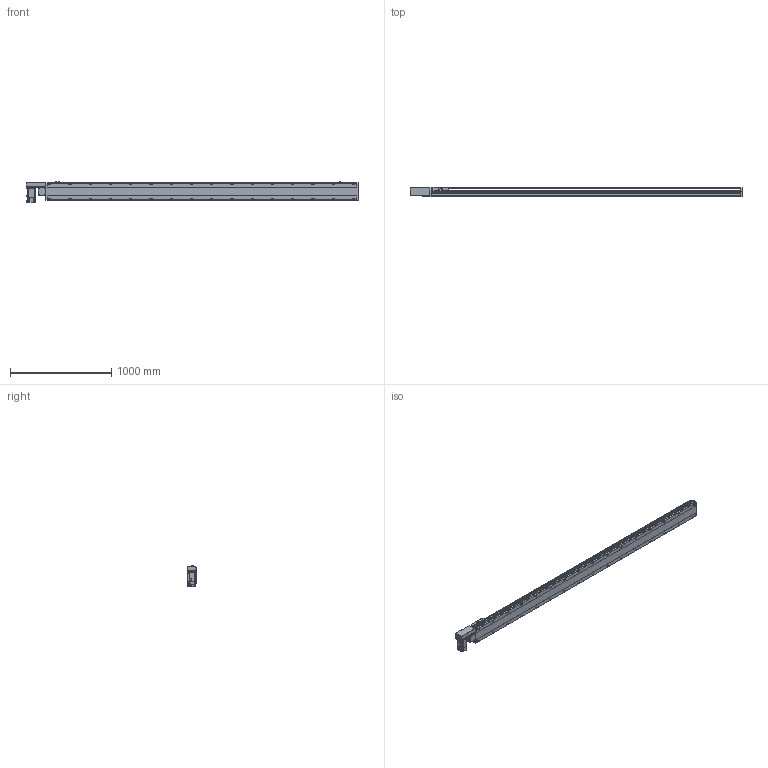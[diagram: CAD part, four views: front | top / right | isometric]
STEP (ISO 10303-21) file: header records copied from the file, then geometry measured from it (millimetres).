
FILE_DESCRIPTION(/* description */ ('STEP AP214'),/* implementation_level */ '2;1');
FILE_NAME(/* name */ 'PBS170-P40-S2800-R-T75-C1-N(0)',/* time_stamp */ '2022-06-07T09:33:07+02:00',/* author */ ('License CC BY-ND 4.0'),/* organization */ ('CADENAS'),/* preprocessor_version */ 'ST-DEVELOPER v18.102',/* originating_system */ 'PARTsolutions',/* authorisation */ ' ');
FILE_SCHEMA (('AUTOMOTIVE_DESIGN {1 0 10303 214 3 1 1}'));
Length unit declared in the file: millimetre
Products named in the file (7): PBS170-P40-S2800-R-T75-C1-N(0); PBS170_sensor; PBS170_plant; PBS170_sliser; T75-p1; PBS170T-R_motors; PBS170-S2800()_body
Assembly tree (8 placements, depth 2):
  PBS170-P40-S2800-R-T75-C1-N(0)
    PBS170_sensor  x3
    PBS170_plant
    PBS170_sliser
    T75-p1
    PBS170T-R_motors
    PBS170-S2800()_body
Bounding box: 3278 x 97 x 205.3 mm (x, y, z)
Volume: 23818204.1 mm3; surface area: 2986693.5 mm2
Topology: 8 solids, 8 shells, 1210 faces, 3195 edges, 2082 vertices
Faces by surface type: plane 735, cylinder 403, cone 62, sphere 8, torus 2
Full cylindrical faces by diameter (mm): 3.242 x4, 4 x2, 4.4 x4, 4.5 x6, 4.917 x4, 6 x9, 6.647 x40, 7 x2, 7.5 x4, 8 x8, 8.5 x32, 10 x4, 10.5 x32, 11 x2, 30 x2, 40 x1, 70 x1
Entity records: 34782 total; most frequent: CARTESIAN_POINT 6609, DIRECTION 5860, ORIENTED_EDGE 5508, EDGE_CURVE 2754, AXIS2_PLACEMENT_3D 2077, VERTEX_POINT 1922, LINE 1706, VECTOR 1706
